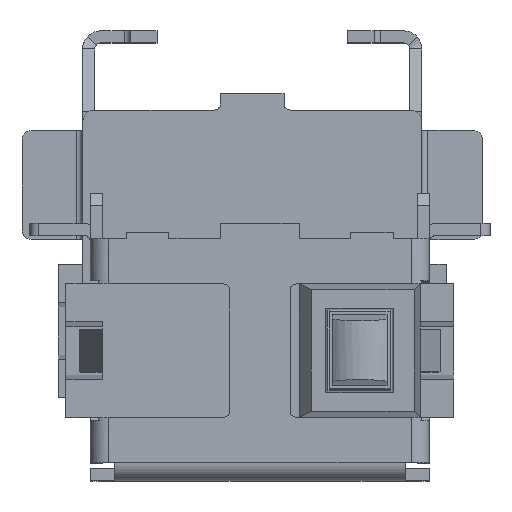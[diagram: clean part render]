
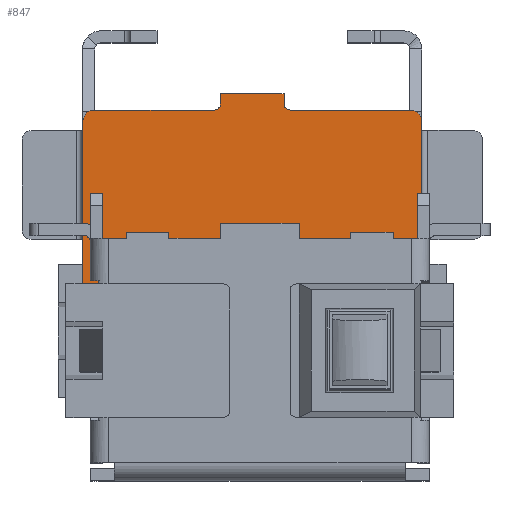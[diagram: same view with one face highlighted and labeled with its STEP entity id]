
A CAD part, top view. The second image highlights one B-rep face of the part: STEP entity #847.
In plain terms, the highlighted planar face has unit normal (0, 0, 1).
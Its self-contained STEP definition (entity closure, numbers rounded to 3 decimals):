
#847 = ADVANCED_FACE( '', ( #1743 ), #1744, .T. );
#1743 = FACE_OUTER_BOUND( '', #2769, .T. );
#1744 = PLANE( '', #2770 );
#2769 = EDGE_LOOP( '', ( #5210, #5211, #5212, #5213, #5214, #5215, #5216, #5217, #5218, #5219, #5220, #5221, #5222, #5223, #5224, #5225 ) );
#2770 = AXIS2_PLACEMENT_3D( '', #5226, #5227, #5228 );
#5210 = ORIENTED_EDGE( '', *, *, #6782, .F. );
#5211 = ORIENTED_EDGE( '', *, *, #6637, .T. );
#5212 = ORIENTED_EDGE( '', *, *, #6829, .F. );
#5213 = ORIENTED_EDGE( '', *, *, #6714, .T. );
#5214 = ORIENTED_EDGE( '', *, *, #6491, .F. );
#5215 = ORIENTED_EDGE( '', *, *, #7071, .F. );
#5216 = ORIENTED_EDGE( '', *, *, #7062, .T. );
#5217 = ORIENTED_EDGE( '', *, *, #6371, .F. );
#5218 = ORIENTED_EDGE( '', *, *, #6640, .T. );
#5219 = ORIENTED_EDGE( '', *, *, #6270, .F. );
#5220 = ORIENTED_EDGE( '', *, *, #7072, .T. );
#5221 = ORIENTED_EDGE( '', *, *, #6224, .T. );
#5222 = ORIENTED_EDGE( '', *, *, #6628, .F. );
#5223 = ORIENTED_EDGE( '', *, *, #6142, .T. );
#5224 = ORIENTED_EDGE( '', *, *, #6230, .T. );
#5225 = ORIENTED_EDGE( '', *, *, #6838, .F. );
#5226 = CARTESIAN_POINT( '', ( 0., 0.17, 2.15 ) );
#5227 = DIRECTION( '', ( 0., 0., 1. ) );
#5228 = DIRECTION( '', ( 0., -1., 0. ) );
#6142 = EDGE_CURVE( '', #7400, #7401, #7402, .T. );
#6224 = EDGE_CURVE( '', #7548, #7549, #7550, .T. );
#6230 = EDGE_CURVE( '', #7401, #7558, #7560, .T. );
#6270 = EDGE_CURVE( '', #7627, #7629, #7630, .T. );
#6371 = EDGE_CURVE( '', #7802, #7804, #7805, .F. );
#6491 = EDGE_CURVE( '', #7999, #8000, #8001, .T. );
#6628 = EDGE_CURVE( '', #7400, #7549, #8209, .T. );
#6637 = EDGE_CURVE( '', #8221, #8219, #8222, .T. );
#6640 = EDGE_CURVE( '', #7802, #7629, #8225, .T. );
#6714 = EDGE_CURVE( '', #8332, #8000, #8333, .F. );
#6782 = EDGE_CURVE( '', #8221, #8429, #8430, .T. );
#6829 = EDGE_CURVE( '', #8332, #8219, #8489, .T. );
#6838 = EDGE_CURVE( '', #8429, #7558, #8500, .T. );
#7062 = EDGE_CURVE( '', #8796, #7804, #8797, .T. );
#7071 = EDGE_CURVE( '', #8796, #7999, #8807, .T. );
#7072 = EDGE_CURVE( '', #7627, #7548, #8808, .T. );
#7400 = VERTEX_POINT( '', #9224 );
#7401 = VERTEX_POINT( '', #9225 );
#7402 = LINE( '', #9226, #9227 );
#7548 = VERTEX_POINT( '', #9436 );
#7549 = VERTEX_POINT( '', #9437 );
#7550 = LINE( '', #9438, #9439 );
#7558 = VERTEX_POINT( '', #9450 );
#7560 = LINE( '', #9453, #9454 );
#7627 = VERTEX_POINT( '', #9546 );
#7629 = VERTEX_POINT( '', #9549 );
#7630 = CIRCLE( '', #9550, 0.2 );
#7802 = VERTEX_POINT( '', #9793 );
#7804 = VERTEX_POINT( '', #9796 );
#7805 = CIRCLE( '', #9797, 0.1 );
#7999 = VERTEX_POINT( '', #10087 );
#8000 = VERTEX_POINT( '', #10088 );
#8001 = LINE( '', #10089, #10090 );
#8209 = LINE( '', #10391, #10392 );
#8219 = VERTEX_POINT( '', #10406 );
#8221 = VERTEX_POINT( '', #10409 );
#8222 = CIRCLE( '', #10410, 0.2 );
#8225 = LINE( '', #10414, #10415 );
#8332 = VERTEX_POINT( '', #10575 );
#8333 = CIRCLE( '', #10576, 0.1 );
#8429 = VERTEX_POINT( '', #10718 );
#8430 = LINE( '', #10719, #10720 );
#8489 = LINE( '', #10806, #10807 );
#8500 = LINE( '', #10820, #10821 );
#8796 = VERTEX_POINT( '', #11261 );
#8797 = LINE( '', #11262, #11263 );
#8807 = LINE( '', #11277, #11278 );
#8808 = LINE( '', #11279, #11280 );
#9224 = CARTESIAN_POINT( '', ( -2.4, 0.3, 2.15 ) );
#9225 = CARTESIAN_POINT( '', ( 2.4, 0.3, 2.15 ) );
#9226 = CARTESIAN_POINT( '', ( 0., 0.3, 2.15 ) );
#9227 = VECTOR( '', #11577, 1000. );
#9436 = CARTESIAN_POINT( '', ( -2.8, 0.339, 2.15 ) );
#9437 = CARTESIAN_POINT( '', ( -2.4, 0.339, 2.15 ) );
#9438 = CARTESIAN_POINT( '', ( -2.4, 0.339, 2.15 ) );
#9439 = VECTOR( '', #11665, 1000. );
#9450 = CARTESIAN_POINT( '', ( 2.4, 0.339, 2.15 ) );
#9453 = CARTESIAN_POINT( '', ( 2.4, 0.17, 2.15 ) );
#9454 = VECTOR( '', #11670, 1000. );
#9546 = CARTESIAN_POINT( '', ( -2.8, 3.439, 2.15 ) );
#9549 = CARTESIAN_POINT( '', ( -2.6, 3.639, 2.15 ) );
#9550 = AXIS2_PLACEMENT_3D( '', #11715, #11716, #11717 );
#9793 = CARTESIAN_POINT( '', ( -0.625, 3.639, 2.15 ) );
#9796 = CARTESIAN_POINT( '', ( -0.525, 3.739, 2.15 ) );
#9797 = AXIS2_PLACEMENT_3D( '', #11832, #11833, #11834 );
#10087 = CARTESIAN_POINT( '', ( 0.525, 3.909, 2.15 ) );
#10088 = CARTESIAN_POINT( '', ( 0.525, 3.739, 2.15 ) );
#10089 = CARTESIAN_POINT( '', ( 0.525, 3.909, 2.15 ) );
#10090 = VECTOR( '', #11943, 1000. );
#10391 = CARTESIAN_POINT( '', ( -2.4, 0.17, 2.15 ) );
#10392 = VECTOR( '', #12073, 1000. );
#10406 = CARTESIAN_POINT( '', ( 2.6, 3.639, 2.15 ) );
#10409 = CARTESIAN_POINT( '', ( 2.8, 3.439, 2.15 ) );
#10410 = AXIS2_PLACEMENT_3D( '', #12079, #12080, #12081 );
#10414 = CARTESIAN_POINT( '', ( -2.8, 3.639, 2.15 ) );
#10415 = VECTOR( '', #12083, 1000. );
#10575 = CARTESIAN_POINT( '', ( 0.625, 3.639, 2.15 ) );
#10576 = AXIS2_PLACEMENT_3D( '', #12146, #12147, #12148 );
#10718 = CARTESIAN_POINT( '', ( 2.8, 0.339, 2.15 ) );
#10719 = CARTESIAN_POINT( '', ( 2.8, 0.339, 2.15 ) );
#10720 = VECTOR( '', #12210, 1000. );
#10806 = CARTESIAN_POINT( '', ( 2.8, 3.639, 2.15 ) );
#10807 = VECTOR( '', #12250, 1000. );
#10820 = CARTESIAN_POINT( '', ( 2.4, 0.339, 2.15 ) );
#10821 = VECTOR( '', #12259, 1000. );
#11261 = CARTESIAN_POINT( '', ( -0.525, 3.909, 2.15 ) );
#11262 = CARTESIAN_POINT( '', ( -0.525, 3.909, 2.15 ) );
#11263 = VECTOR( '', #12467, 1000. );
#11277 = CARTESIAN_POINT( '', ( -0.5, 3.909, 2.15 ) );
#11278 = VECTOR( '', #12472, 1000. );
#11279 = CARTESIAN_POINT( '', ( -2.8, 0.339, 2.15 ) );
#11280 = VECTOR( '', #12473, 1000. );
#11577 = DIRECTION( '', ( 1., 0., 0. ) );
#11665 = DIRECTION( '', ( 1., 0., 0. ) );
#11670 = DIRECTION( '', ( 0., 1., 0. ) );
#11715 = CARTESIAN_POINT( '', ( -2.6, 3.439, 2.15 ) );
#11716 = DIRECTION( '', ( 0., 0., -1. ) );
#11717 = DIRECTION( '', ( 0., -1., 0. ) );
#11832 = CARTESIAN_POINT( '', ( -0.625, 3.739, 2.15 ) );
#11833 = DIRECTION( '', ( 0., 0., -1. ) );
#11834 = DIRECTION( '', ( 0., -1., 0. ) );
#11943 = DIRECTION( '', ( 0., -1., 0. ) );
#12073 = DIRECTION( '', ( 0., 1., 0. ) );
#12079 = CARTESIAN_POINT( '', ( 2.6, 3.439, 2.15 ) );
#12080 = DIRECTION( '', ( 0., 0., 1. ) );
#12081 = DIRECTION( '', ( 0., -1., 0. ) );
#12083 = DIRECTION( '', ( -1., 0., 0. ) );
#12146 = CARTESIAN_POINT( '', ( 0.625, 3.739, 2.15 ) );
#12147 = DIRECTION( '', ( 0., 0., 1. ) );
#12148 = DIRECTION( '', ( 0., -1., 0. ) );
#12210 = DIRECTION( '', ( 0., -1., 0. ) );
#12250 = DIRECTION( '', ( 1., 0., 0. ) );
#12259 = DIRECTION( '', ( -1., 0., 0. ) );
#12467 = DIRECTION( '', ( 0., -1., 0. ) );
#12472 = DIRECTION( '', ( 1., 0., 0. ) );
#12473 = DIRECTION( '', ( 0., -1., 0. ) );
